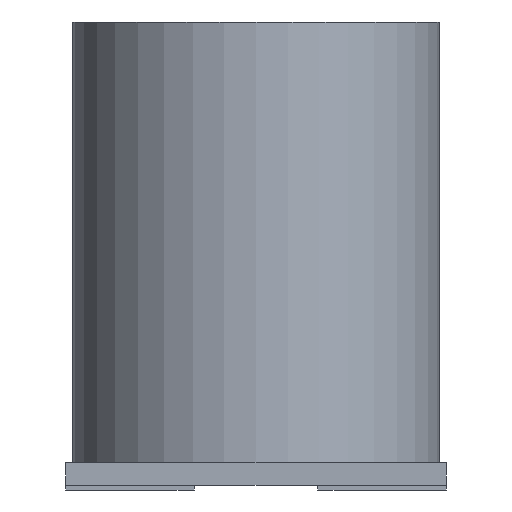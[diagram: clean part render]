
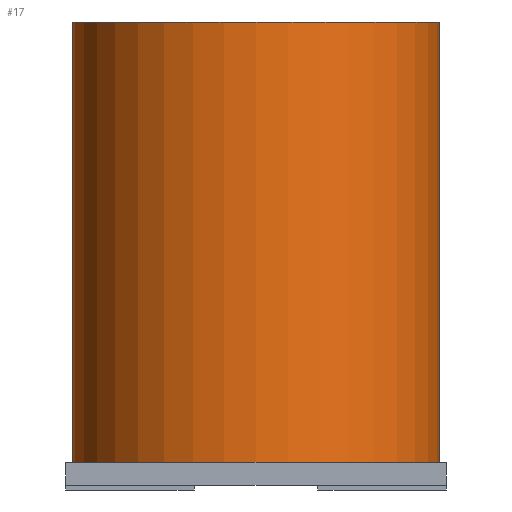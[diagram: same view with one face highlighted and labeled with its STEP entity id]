
A CAD part, front view. The second image highlights one B-rep face of the part: STEP entity #17.
In plain terms, the highlighted cylindrical face has radius 4 mm (diameter 8 mm), a full revolution.
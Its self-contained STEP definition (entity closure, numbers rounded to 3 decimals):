
#17 = ADVANCED_FACE('',(#18),#31,.T.);
#18 = FACE_BOUND('',#19,.T.);
#19 = EDGE_LOOP('',(#20,#54,#77,#104));
#20 = ORIENTED_EDGE('',*,*,#21,.F.);
#21 = EDGE_CURVE('',#22,#22,#24,.T.);
#22 = VERTEX_POINT('',#23);
#23 = CARTESIAN_POINT('',(4.,0.,10.2));
#24 = SURFACE_CURVE('',#25,(#30,#42),.PCURVE_S1.);
#25 = CIRCLE('',#26,4.);
#26 = AXIS2_PLACEMENT_3D('',#27,#28,#29);
#27 = CARTESIAN_POINT('',(0.,0.,10.2));
#28 = DIRECTION('',(0.,0.,1.));
#29 = DIRECTION('',(1.,0.,-0.));
#30 = PCURVE('',#31,#36);
#31 = CYLINDRICAL_SURFACE('',#32,4.);
#32 = AXIS2_PLACEMENT_3D('',#33,#34,#35);
#33 = CARTESIAN_POINT('',(0.,0.,0.6));
#34 = DIRECTION('',(0.,0.,1.));
#35 = DIRECTION('',(1.,0.,-0.));
#36 = DEFINITIONAL_REPRESENTATION('',(#37),#41);
#37 = LINE('',#38,#39);
#38 = CARTESIAN_POINT('',(0.,9.6));
#39 = VECTOR('',#40,1.);
#40 = DIRECTION('',(1.,0.));
#41 = ( GEOMETRIC_REPRESENTATION_CONTEXT(2) 
PARAMETRIC_REPRESENTATION_CONTEXT() REPRESENTATION_CONTEXT('2D SPACE',''
  ) );
#42 = PCURVE('',#43,#48);
#43 = PLANE('',#44);
#44 = AXIS2_PLACEMENT_3D('',#45,#46,#47);
#45 = CARTESIAN_POINT('',(0.,0.,10.2));
#46 = DIRECTION('',(0.,0.,1.));
#47 = DIRECTION('',(1.,0.,-0.));
#48 = DEFINITIONAL_REPRESENTATION('',(#49),#53);
#49 = CIRCLE('',#50,4.);
#50 = AXIS2_PLACEMENT_2D('',#51,#52);
#51 = CARTESIAN_POINT('',(0.,0.));
#52 = DIRECTION('',(1.,0.));
#53 = ( GEOMETRIC_REPRESENTATION_CONTEXT(2) 
PARAMETRIC_REPRESENTATION_CONTEXT() REPRESENTATION_CONTEXT('2D SPACE',''
  ) );
#54 = ORIENTED_EDGE('',*,*,#55,.F.);
#55 = EDGE_CURVE('',#56,#22,#58,.T.);
#56 = VERTEX_POINT('',#57);
#57 = CARTESIAN_POINT('',(4.,0.,0.6));
#58 = SEAM_CURVE('',#59,(#63,#70),.PCURVE_S1.);
#59 = LINE('',#60,#61);
#60 = CARTESIAN_POINT('',(4.,0.,0.6));
#61 = VECTOR('',#62,1.);
#62 = DIRECTION('',(0.,0.,1.));
#63 = PCURVE('',#31,#64);
#64 = DEFINITIONAL_REPRESENTATION('',(#65),#69);
#65 = LINE('',#66,#67);
#66 = CARTESIAN_POINT('',(6.283,-0.));
#67 = VECTOR('',#68,1.);
#68 = DIRECTION('',(0.,1.));
#69 = ( GEOMETRIC_REPRESENTATION_CONTEXT(2) 
PARAMETRIC_REPRESENTATION_CONTEXT() REPRESENTATION_CONTEXT('2D SPACE',''
  ) );
#70 = PCURVE('',#31,#71);
#71 = DEFINITIONAL_REPRESENTATION('',(#72),#76);
#72 = LINE('',#73,#74);
#73 = CARTESIAN_POINT('',(0.,-0.));
#74 = VECTOR('',#75,1.);
#75 = DIRECTION('',(0.,1.));
#76 = ( GEOMETRIC_REPRESENTATION_CONTEXT(2) 
PARAMETRIC_REPRESENTATION_CONTEXT() REPRESENTATION_CONTEXT('2D SPACE',''
  ) );
#77 = ORIENTED_EDGE('',*,*,#78,.T.);
#78 = EDGE_CURVE('',#56,#56,#79,.T.);
#79 = SURFACE_CURVE('',#80,(#85,#92),.PCURVE_S1.);
#80 = CIRCLE('',#81,4.);
#81 = AXIS2_PLACEMENT_3D('',#82,#83,#84);
#82 = CARTESIAN_POINT('',(0.,0.,0.6));
#83 = DIRECTION('',(0.,0.,1.));
#84 = DIRECTION('',(1.,0.,-0.));
#85 = PCURVE('',#31,#86);
#86 = DEFINITIONAL_REPRESENTATION('',(#87),#91);
#87 = LINE('',#88,#89);
#88 = CARTESIAN_POINT('',(0.,0.));
#89 = VECTOR('',#90,1.);
#90 = DIRECTION('',(1.,0.));
#91 = ( GEOMETRIC_REPRESENTATION_CONTEXT(2) 
PARAMETRIC_REPRESENTATION_CONTEXT() REPRESENTATION_CONTEXT('2D SPACE',''
  ) );
#92 = PCURVE('',#93,#98);
#93 = PLANE('',#94);
#94 = AXIS2_PLACEMENT_3D('',#95,#96,#97);
#95 = CARTESIAN_POINT('',(0.,0.,0.6));
#96 = DIRECTION('',(0.,0.,1.));
#97 = DIRECTION('',(1.,0.,-0.));
#98 = DEFINITIONAL_REPRESENTATION('',(#99),#103);
#99 = CIRCLE('',#100,4.);
#100 = AXIS2_PLACEMENT_2D('',#101,#102);
#101 = CARTESIAN_POINT('',(0.,0.));
#102 = DIRECTION('',(1.,0.));
#103 = ( GEOMETRIC_REPRESENTATION_CONTEXT(2) 
PARAMETRIC_REPRESENTATION_CONTEXT() REPRESENTATION_CONTEXT('2D SPACE',''
  ) );
#104 = ORIENTED_EDGE('',*,*,#55,.T.);
